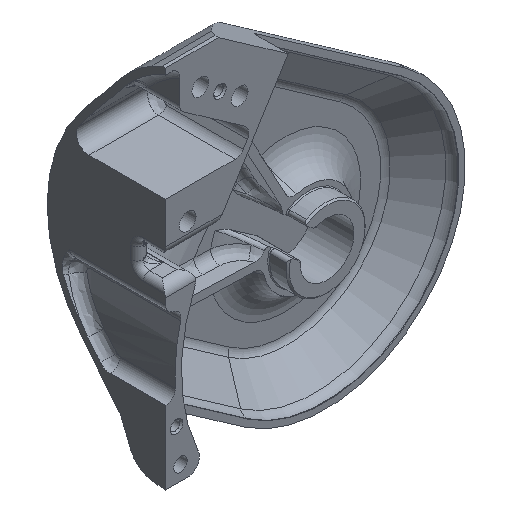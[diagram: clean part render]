
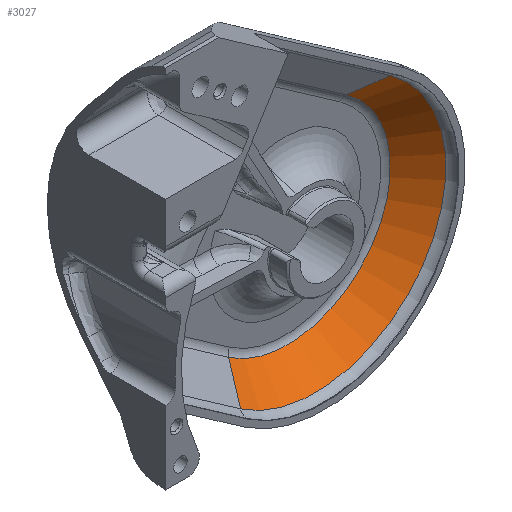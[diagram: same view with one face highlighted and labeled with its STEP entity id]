
A CAD part, isometric view. The second image highlights one B-rep face of the part: STEP entity #3027.
In plain terms, the highlighted conical face has half-angle 45 degrees and reference radius 43.061 mm.
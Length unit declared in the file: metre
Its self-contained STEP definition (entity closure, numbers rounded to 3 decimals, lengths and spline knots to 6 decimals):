
#73=CONICAL_SURFACE('',#3287,0.043061,0.785);
#205=CIRCLE('',#3288,0.041303);
#206=CIRCLE('',#3289,0.032525);
#725=ORIENTED_EDGE('',*,*,#1616,.F.);
#726=ORIENTED_EDGE('',*,*,#1617,.T.);
#727=ORIENTED_EDGE('',*,*,#1618,.T.);
#728=ORIENTED_EDGE('',*,*,#1619,.T.);
#1616=EDGE_CURVE('',#2051,#2052,#2278,.F.);
#1617=EDGE_CURVE('',#2051,#2053,#205,.T.);
#1618=EDGE_CURVE('',#2053,#2054,#2279,.T.);
#1619=EDGE_CURVE('',#2054,#2052,#206,.T.);
#2051=VERTEX_POINT('',#5072);
#2052=VERTEX_POINT('',#5073);
#2053=VERTEX_POINT('',#5075);
#2054=VERTEX_POINT('',#5077);
#2278=LINE('',#5071,#2437);
#2279=LINE('',#5076,#2438);
#2437=VECTOR('',#3824,1.);
#2438=VECTOR('',#3827,1.);
#2536=EDGE_LOOP('',(#725,#726,#727,#728));
#2759=FACE_BOUND('',#2536,.T.);
#3027=ADVANCED_FACE('',(#2759),#73,.F.);
#3287=AXIS2_PLACEMENT_3D('',#5070,#3822,#3823);
#3288=AXIS2_PLACEMENT_3D('',#5074,#3825,#3826);
#3289=AXIS2_PLACEMENT_3D('',#5078,#3828,#3829);
#3822=DIRECTION('',(0.,-1.,0.));
#3823=DIRECTION('',(0.,0.,-1.));
#3824=DIRECTION('',(-0.406,-0.707,-0.579));
#3825=DIRECTION('',(0.,-1.,0.));
#3826=DIRECTION('',(0.,0.,-1.));
#3827=DIRECTION('',(-0.406,0.707,-0.579));
#3828=DIRECTION('',(0.,1.,0.));
#3829=DIRECTION('',(0.,0.,1.));
#5070=CARTESIAN_POINT('',(0.126,0.038336,-0.094));
#5071=CARTESIAN_POINT('',(0.101301,0.038336,-0.129273));
#5072=CARTESIAN_POINT('',(0.102309,0.040093,-0.127834));
#5073=CARTESIAN_POINT('',(0.107344,0.048871,-0.120643));
#5074=CARTESIAN_POINT('',(0.126,0.040093,-0.094));
#5075=CARTESIAN_POINT('',(0.149691,0.040093,-0.060166));
#5076=CARTESIAN_POINT('',(0.150699,0.038336,-0.058727));
#5077=CARTESIAN_POINT('',(0.144656,0.048871,-0.067357));
#5078=CARTESIAN_POINT('',(0.126,0.048871,-0.094));
